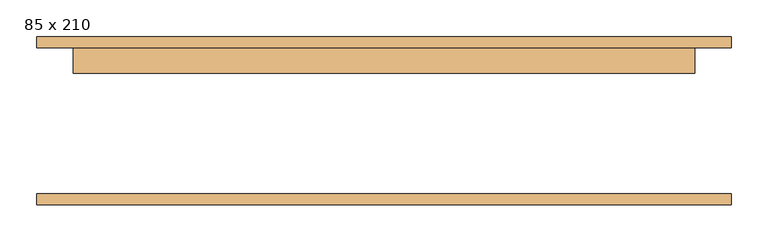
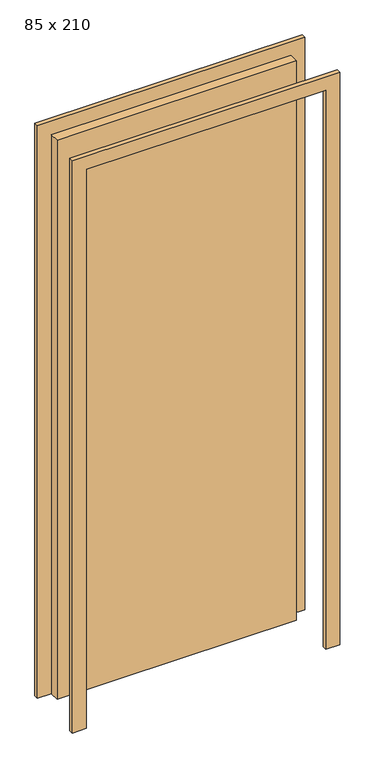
"""IFC4 building model written with IfcOpenShell, lengths in millimetres: door geometry, M_Descarga simples : 85 x 210."""

from ifc_helpers import new_model, si_unit, frame, origin, origin_with_axes, place, context, project, spatial, polyline, outline, extrude, source, transform, mapped, element, save


def door_85_x_210_7675e995(model_context):
    return source(origin(), model_context, "Body", "SweptSolid", [
        extrude(outline(polyline([(2150.0, -475.0), (0.0, -475.0), (0.0, -425.0), (2100.0, -425.0), (2100.0, 425.0), (0.0, 425.0), (0.0, 475.0), (2150.0, 475.0), (2150.0, -475.0)])), frame((0.0, 100.0, 0.0), z_axis=(0.0, 1.0, 0.0), x_axis=(0.0, 0.0, 1.0)), (0.0, 0.0, 1.0), 15.0),
        extrude(outline(polyline([(2150.0, 475.0), (2150.0, -475.0), (0.0, -475.0), (0.0, -425.0), (2100.0, -425.0), (2100.0, 425.0), (0.0, 425.0), (0.0, 475.0), (2150.0, 475.0)])), frame((0.0, -115.0, 0.0), z_axis=(0.0, 1.0, 0.0), x_axis=(0.0, 0.0, 1.0)), (0.0, 0.0, 1.0), 15.0),
        extrude(outline(polyline([(425.0, 65.0), (-425.0, 65.0), (-425.0, 100.0), (425.0, 100.0), (425.0, 65.0)])), origin_with_axes(), (0.0, 0.0, 1.0), 2100.0),
    ])


if __name__ == "__main__":
    model = new_model("IFC4")
    model_context = context("Model", 3, world=origin())
    ifc_project = project(units=[si_unit("LENGTHUNIT", "METRE", prefix="MILLI")], contexts=[model_context])
    site = spatial("IfcSite", under=ifc_project)
    building = spatial("IfcBuilding", under=site)
    placement = place(None, origin())
    door_85_x_210_shape = door_85_x_210_7675e995(model_context)
    element("IfcDoor", 1, ObjectType="M_Descarga simples : 85 x 210", at=placement, inside=building, context=model_context, shape_type="MappedRepresentation", body=[
        mapped(door_85_x_210_shape, transform((0.0, 0.0, 0.0), x_axis=(1.0, 0.0, 0.0), y_axis=(0.0, 1.0, 0.0), z_axis=(0.0, 0.0, 1.0))),
    ])
    save(model, "model.ifc")
